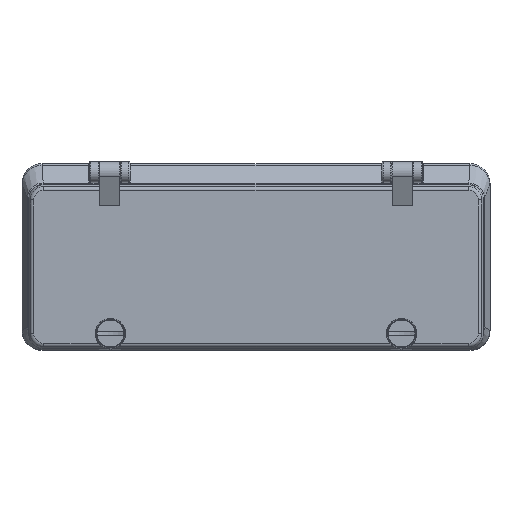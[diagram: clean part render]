
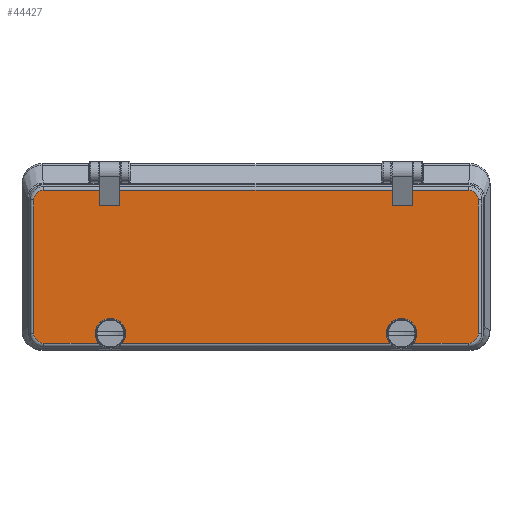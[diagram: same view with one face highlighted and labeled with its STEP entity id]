
A CAD part, top view. The second image highlights one B-rep face of the part: STEP entity #44427.
In plain terms, the highlighted planar face has unit normal (0, 0, 1).
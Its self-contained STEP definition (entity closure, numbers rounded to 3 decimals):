
#5496=CARTESIAN_POINT('',(105.75,28.4,16.5));
#5497=DIRECTION('',(0.,0.,1.));
#5498=DIRECTION('',(1.,0.,0.));
#5499=AXIS2_PLACEMENT_3D('',#5496,#5497,#5498);
#5511=CARTESIAN_POINT('',(72.5,-38.1,16.5));
#5512=DIRECTION('',(0.,0.,-1.));
#5513=DIRECTION('',(-1.,0.,0.));
#5514=AXIS2_PLACEMENT_3D('',#5511,#5512,#5513);
#5516=CARTESIAN_POINT('',(72.5,-38.1,16.5));
#5517=DIRECTION('',(0.,0.,-1.));
#5518=DIRECTION('',(-0.279,-0.96,0.));
#5519=AXIS2_PLACEMENT_3D('',#5516,#5517,#5518);
#5521=CARTESIAN_POINT('',(-72.5,-38.1,16.5));
#5522=DIRECTION('',(0.,0.,-1.));
#5523=DIRECTION('',(1.,0.,0.));
#5524=AXIS2_PLACEMENT_3D('',#5521,#5522,#5523);
#5526=CARTESIAN_POINT('',(-72.5,-38.1,16.5));
#5527=DIRECTION('',(0.,0.,-1.));
#5528=DIRECTION('',(-1.,0.,0.));
#5529=AXIS2_PLACEMENT_3D('',#5526,#5527,#5528);
#5531=CARTESIAN_POINT('',(-72.5,-38.1,16.5));
#5532=DIRECTION('',(0.,0.,-1.));
#5533=DIRECTION('',(-0.279,-0.96,0.));
#5534=AXIS2_PLACEMENT_3D('',#5531,#5532,#5533);
#5536=DIRECTION('',(0.,-1.,0.));
#5537=VECTOR('',#5536,7.713);
#5538=CARTESIAN_POINT('',(-77.75,33.302,16.5));
#5539=LINE('5019',#5538,#5537);
#5540=DIRECTION('',(-1.,0.,0.));
#5541=VECTOR('',#5540,10.);
#5542=CARTESIAN_POINT('',(-67.75,25.588,16.5));
#5543=LINE('4945',#5542,#5541);
#5544=DIRECTION('',(0.,-1.,0.));
#5545=VECTOR('',#5544,7.713);
#5546=CARTESIAN_POINT('',(-67.75,33.302,16.5));
#5547=LINE('5032',#5546,#5545);
#5548=DIRECTION('',(0.,-1.,0.));
#5549=VECTOR('',#5548,7.713);
#5550=CARTESIAN_POINT('',(67.75,33.302,16.5));
#5551=LINE('5031',#5550,#5549);
#5552=DIRECTION('',(1.,0.,0.));
#5553=VECTOR('',#5552,10.);
#5554=CARTESIAN_POINT('',(67.75,25.588,16.5));
#5555=LINE('4917',#5554,#5553);
#5556=DIRECTION('',(0.,-1.,0.));
#5557=VECTOR('',#5556,7.713);
#5558=CARTESIAN_POINT('',(77.75,33.302,16.5));
#5559=LINE('5028',#5558,#5557);
#5560=CARTESIAN_POINT('',(72.5,-38.1,16.5));
#5561=DIRECTION('',(0.,0.,-1.));
#5562=DIRECTION('',(1.,0.,0.));
#5563=AXIS2_PLACEMENT_3D('',#5560,#5561,#5562);
#5582=DIRECTION('',(1.,0.,0.));
#5583=VECTOR('',#5582,31.857);
#5584=CARTESIAN_POINT('',(73.893,-42.902,16.5));
#5585=LINE('6775',#5584,#5583);
#5595=DIRECTION('',(1.,0.,0.));
#5596=VECTOR('',#5595,31.857);
#5597=CARTESIAN_POINT('',(-105.75,-42.902,16.5));
#5598=LINE('5920',#5597,#5596);
#5603=DIRECTION('',(1.,0.,0.));
#5604=VECTOR('',#5603,142.213);
#5605=CARTESIAN_POINT('',(-71.107,-42.902,16.5));
#5606=LINE('6774',#5605,#5604);
#5607=CARTESIAN_POINT('',(105.75,-38.,16.5));
#5608=DIRECTION('',(0.,0.,1.));
#5609=DIRECTION('',(0.,-1.,0.));
#5610=AXIS2_PLACEMENT_3D('',#5607,#5608,#5609);
#5622=DIRECTION('',(0.,1.,0.));
#5623=VECTOR('',#5622,66.4);
#5624=CARTESIAN_POINT('',(110.652,-38.,16.5));
#5625=LINE('5004',#5624,#5623);
#5695=CARTESIAN_POINT('',(-105.75,-38.,16.5));
#5696=DIRECTION('',(0.,0.,1.));
#5697=DIRECTION('',(-1.,0.,0.));
#5698=AXIS2_PLACEMENT_3D('',#5695,#5696,#5697);
#5710=DIRECTION('',(0.,-1.,0.));
#5711=VECTOR('',#5710,66.4);
#5712=CARTESIAN_POINT('',(-110.652,28.4,16.5));
#5713=LINE('4993',#5712,#5711);
#5753=CARTESIAN_POINT('',(-105.75,28.4,16.5));
#5754=DIRECTION('',(0.,0.,1.));
#5755=DIRECTION('',(0.,1.,0.));
#5756=AXIS2_PLACEMENT_3D('',#5753,#5754,#5755);
#5768=DIRECTION('',(-1.,0.,0.));
#5769=VECTOR('',#5768,28.);
#5770=CARTESIAN_POINT('',(-77.75,33.302,16.5));
#5771=LINE('4987',#5770,#5769);
#16370=DIRECTION('',(-1.,0.,0.));
#16371=VECTOR('',#16370,135.5);
#16372=CARTESIAN_POINT('',(67.75,33.302,16.5));
#16373=LINE('5014',#16372,#16371);
#16420=DIRECTION('',(-1.,0.,0.));
#16421=VECTOR('',#16420,28.);
#16422=CARTESIAN_POINT('',(105.75,33.302,16.5));
#16423=LINE('5010',#16422,#16421);
#32332=CARTESIAN_POINT('',(67.75,25.588,16.5));
#32333=CARTESIAN_POINT('',(77.75,25.588,16.5));
#32334=VERTEX_POINT('',#32332);
#32335=VERTEX_POINT('',#32333);
#32372=CARTESIAN_POINT('',(-67.75,25.588,16.5));
#32373=CARTESIAN_POINT('',(-77.75,25.588,16.5));
#32374=VERTEX_POINT('',#32372);
#32375=VERTEX_POINT('',#32373);
#32420=CARTESIAN_POINT('',(-77.75,33.302,16.5));
#32421=CARTESIAN_POINT('',(-105.75,33.302,16.5));
#32422=VERTEX_POINT('',#32420);
#32423=VERTEX_POINT('',#32421);
#32428=CARTESIAN_POINT('',(-110.652,28.4,16.5));
#32429=VERTEX_POINT('',#32428);
#32432=CARTESIAN_POINT('',(-110.652,-38.,16.5));
#32433=VERTEX_POINT('',#32432);
#32436=CARTESIAN_POINT('',(-105.75,-42.902,16.5));
#32437=VERTEX_POINT('',#32436);
#32442=CARTESIAN_POINT('',(105.75,-42.902,16.5));
#32443=CARTESIAN_POINT('',(110.652,-38.,16.5));
#32444=VERTEX_POINT('',#32442);
#32445=VERTEX_POINT('',#32443);
#32448=CARTESIAN_POINT('',(110.652,28.4,16.5));
#32449=VERTEX_POINT('',#32448);
#32452=CARTESIAN_POINT('',(105.75,33.302,16.5));
#32453=VERTEX_POINT('',#32452);
#32456=CARTESIAN_POINT('',(77.75,33.302,16.5));
#32457=VERTEX_POINT('',#32456);
#32460=CARTESIAN_POINT('',(67.75,33.302,16.5));
#32461=CARTESIAN_POINT('',(-67.75,33.302,16.5));
#32462=VERTEX_POINT('',#32460);
#32463=VERTEX_POINT('',#32461);
#33370=CARTESIAN_POINT('',(-77.5,-38.1,16.5));
#33371=CARTESIAN_POINT('',(-67.5,-38.1,16.5));
#33372=VERTEX_POINT('',#33370);
#33373=VERTEX_POINT('',#33371);
#33374=CARTESIAN_POINT('',(-71.107,-42.902,16.5));
#33375=VERTEX_POINT('',#33374);
#33376=CARTESIAN_POINT('',(-73.893,-42.902,16.5));
#33377=VERTEX_POINT('',#33376);
#34240=CARTESIAN_POINT('',(67.5,-38.1,16.5));
#34241=CARTESIAN_POINT('',(77.5,-38.1,16.5));
#34242=VERTEX_POINT('',#34240);
#34243=VERTEX_POINT('',#34241);
#34244=CARTESIAN_POINT('',(73.893,-42.902,16.5));
#34245=VERTEX_POINT('',#34244);
#34246=CARTESIAN_POINT('',(71.107,-42.902,16.5));
#34247=VERTEX_POINT('',#34246);
#44377=CARTESIAN_POINT('',(0.,0.,16.5));
#44378=DIRECTION('',(0.,0.,1.));
#44379=DIRECTION('',(1.,0.,0.));
#44380=AXIS2_PLACEMENT_3D('',#44377,#44378,#44379);
#44381=PLANE('1017',#44380);
#44383=ORIENTED_EDGE('6766',*,*,#44382,.F.);
#44385=ORIENTED_EDGE('6768',*,*,#44384,.F.);
#44387=ORIENTED_EDGE('6774',*,*,#44386,.F.);
#44389=ORIENTED_EDGE('5915',*,*,#44388,.F.);
#44391=ORIENTED_EDGE('5914',*,*,#44390,.F.);
#44393=ORIENTED_EDGE('5916',*,*,#44392,.F.);
#44395=ORIENTED_EDGE('5920',*,*,#44394,.F.);
#44397=ORIENTED_EDGE('4996',*,*,#44396,.F.);
#44399=ORIENTED_EDGE('4993',*,*,#44398,.F.);
#44401=ORIENTED_EDGE('4990',*,*,#44400,.F.);
#44403=ORIENTED_EDGE('4987',*,*,#44402,.F.);
#44404=ORIENTED_EDGE('5019',*,*,#44088,.T.);
#44406=ORIENTED_EDGE('4945',*,*,#44405,.F.);
#44407=ORIENTED_EDGE('5032',*,*,#44146,.F.);
#44409=ORIENTED_EDGE('5014',*,*,#44408,.F.);
#44410=ORIENTED_EDGE('5031',*,*,#44208,.T.);
#44412=ORIENTED_EDGE('4917',*,*,#44411,.T.);
#44413=ORIENTED_EDGE('5028',*,*,#44265,.F.);
#44415=ORIENTED_EDGE('5010',*,*,#44414,.F.);
#44416=ORIENTED_EDGE('5007',*,*,#44360,.F.);
#44418=ORIENTED_EDGE('5004',*,*,#44417,.F.);
#44420=ORIENTED_EDGE('5001',*,*,#44419,.F.);
#44422=ORIENTED_EDGE('6775',*,*,#44421,.F.);
#44424=ORIENTED_EDGE('6767',*,*,#44423,.F.);
#44425=EDGE_LOOP('1017',(#44383,#44385,#44387,#44389,#44391,#44393,#44395,
#44397,#44399,#44401,#44403,#44404,#44406,#44407,#44409,#44410,#44412,#44413,
#44415,#44416,#44418,#44420,#44422,#44424));
#44426=FACE_OUTER_BOUND('1017',#44425,.F.);
#5500=CIRCLE('5007',#5499,4.902);
#5515=CIRCLE('6766',#5514,5.);
#5520=CIRCLE('6768',#5519,5.);
#5525=CIRCLE('5915',#5524,5.);
#5530=CIRCLE('5914',#5529,5.);
#5535=CIRCLE('5916',#5534,5.);
#5564=CIRCLE('6767',#5563,5.);
#5611=CIRCLE('5001',#5610,4.902);
#5699=CIRCLE('4996',#5698,4.902);
#5757=CIRCLE('4990',#5756,4.902);
#44088=EDGE_CURVE('5019',#32422,#32375,#5539,.T.);
#44146=EDGE_CURVE('5032',#32463,#32374,#5547,.T.);
#44208=EDGE_CURVE('5031',#32462,#32334,#5551,.T.);
#44265=EDGE_CURVE('5028',#32457,#32335,#5559,.T.);
#44360=EDGE_CURVE('5007',#32449,#32453,#5500,.T.);
#44382=EDGE_CURVE('6766',#34242,#34243,#5515,.T.);
#44384=EDGE_CURVE('6768',#34247,#34242,#5520,.T.);
#44386=EDGE_CURVE('6774',#33375,#34247,#5606,.T.);
#44388=EDGE_CURVE('5915',#33373,#33375,#5525,.T.);
#44390=EDGE_CURVE('5914',#33372,#33373,#5530,.T.);
#44392=EDGE_CURVE('5916',#33377,#33372,#5535,.T.);
#44394=EDGE_CURVE('5920',#32437,#33377,#5598,.T.);
#44396=EDGE_CURVE('4996',#32433,#32437,#5699,.T.);
#44398=EDGE_CURVE('4993',#32429,#32433,#5713,.T.);
#44400=EDGE_CURVE('4990',#32423,#32429,#5757,.T.);
#44402=EDGE_CURVE('4987',#32422,#32423,#5771,.T.);
#44405=EDGE_CURVE('4945',#32374,#32375,#5543,.T.);
#44408=EDGE_CURVE('5014',#32462,#32463,#16373,.T.);
#44411=EDGE_CURVE('4917',#32334,#32335,#5555,.T.);
#44414=EDGE_CURVE('5010',#32453,#32457,#16423,.T.);
#44417=EDGE_CURVE('5004',#32445,#32449,#5625,.T.);
#44419=EDGE_CURVE('5001',#32444,#32445,#5611,.T.);
#44421=EDGE_CURVE('6775',#34245,#32444,#5585,.T.);
#44423=EDGE_CURVE('6767',#34243,#34245,#5564,.T.);
#44427=ADVANCED_FACE('1017',(#44426),#44381,.T.);
